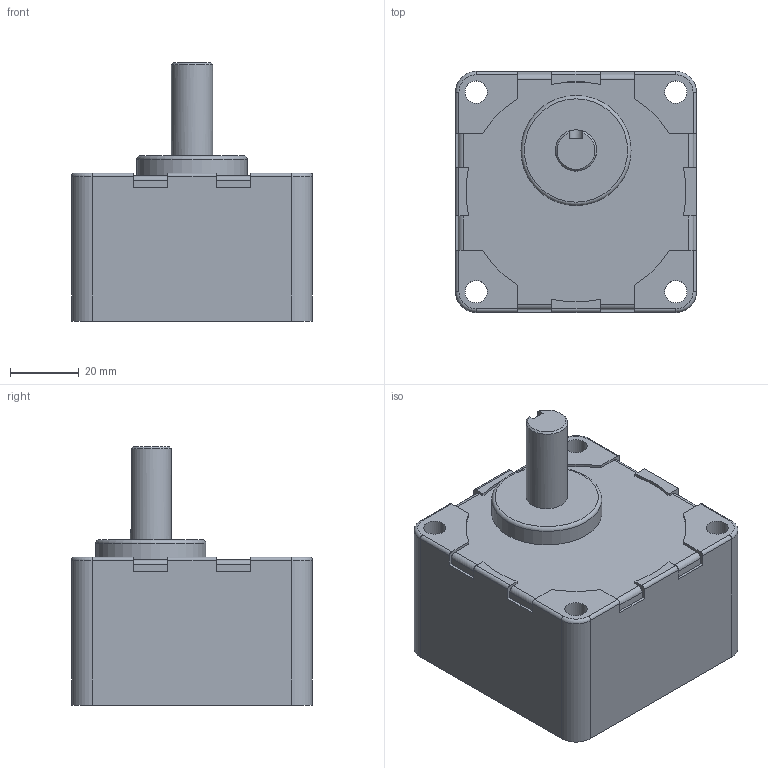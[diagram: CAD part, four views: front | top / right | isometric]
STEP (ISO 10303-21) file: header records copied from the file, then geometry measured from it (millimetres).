
FILE_DESCRIPTION(/* description */ (''),/* implementation_level */ '2;1');
FILE_NAME(/* name */ 'E:\도면작업\2016\0704) 미주향 SG 도면\3D GEAR HEAD\SG7KA5~120.stp',/* time_stamp */ '2016-07-22T14:02:01+09:00',/* author */ ('jy-jung'),/* organization */ (''),/* preprocessor_version */ 'ST-DEVELOPER v15.6',/* originating_system */ 'Autodesk Inventor 2015',/* authorisation */ '');
FILE_SCHEMA (('AUTOMOTIVE_DESIGN { 1 0 10303 214 3 1 1 }'));
Length unit declared in the file: millimetre
Products named in the file (1): SG7KA5~120
Bounding box: 70 x 70 x 75 mm (x, y, z)
Volume: 199431.9 mm3; surface area: 27043.9 mm2
Topology: 1 solids, 1 shells, 101 faces, 275 edges, 180 vertices
Faces by surface type: plane 53, cylinder 40, torus 5, cone 3
Full cylindrical faces by diameter (mm): 6.5 x4, 7.5 x1, 12 x1, 32 x1, 65 x1
Entity records: 3184 total; most frequent: CARTESIAN_POINT 566, DIRECTION 550, ORIENTED_EDGE 526, EDGE_CURVE 263, AXIS2_PLACEMENT_3D 189, VERTEX_POINT 179, LINE 172, VECTOR 172
